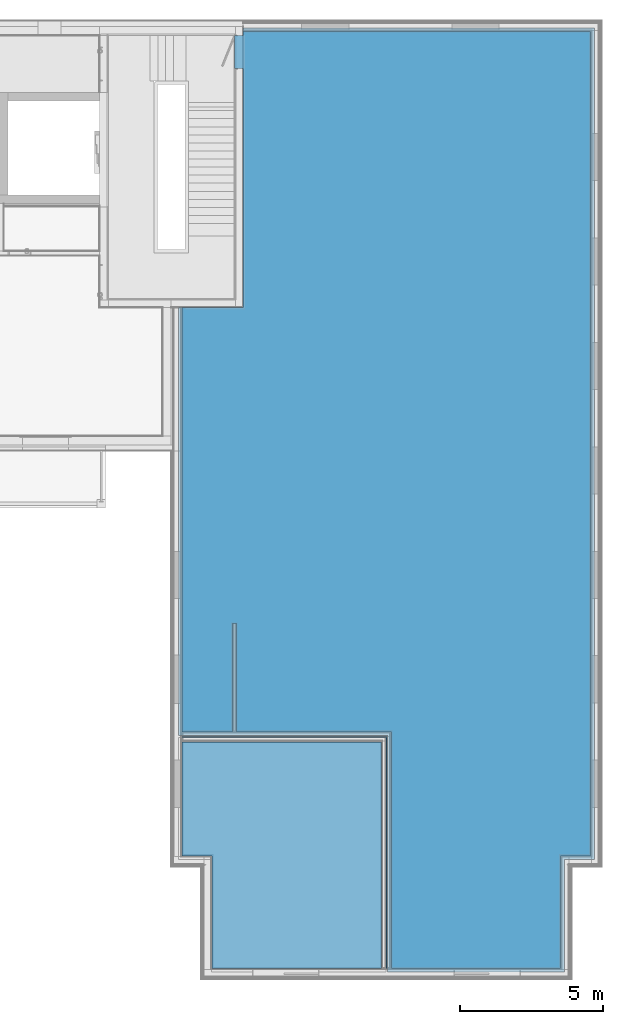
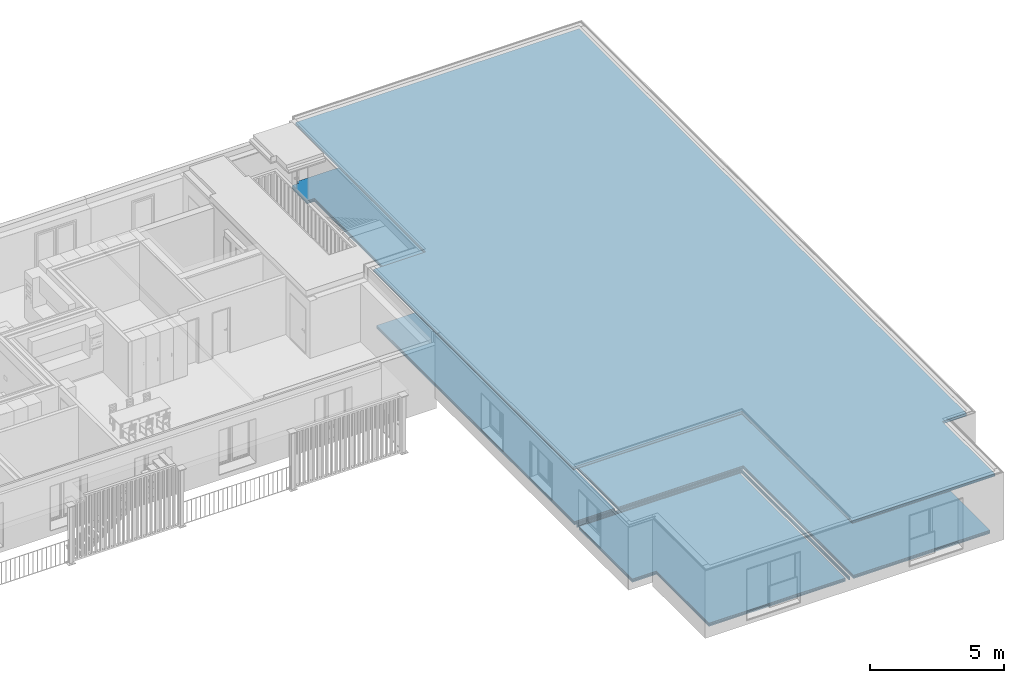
# One storey, part 18 of 34: 6 building element parts, 2 elements without a shape of their own.
"""IFC4 building model written with IfcOpenShell, lengths in millimetres."""

import ifcopenshell
import ifcopenshell.guid

model = None  # the IFC model being written
_history = None  # IfcOwnerHistory: only IFC2X3 demands one
_inside = {}  # id of a spatial element -> (the spatial element, [elements in it])
_under = {}  # id of a project, library or spatial element -> (it, [spatial elements below it])
_declared = {}  # id of a project -> (the project, [libraries it declares])
_typed = {}  # id of a type object -> (the type object, [elements of that type])
_made_of = {}  # id of a material, layer set ... -> (it, [elements and type objects made of it])


def new_model(schema):
    """Start an empty IFC model of exactly this schema.

    Asked for "IFC4X3", IfcOpenShell would pick the latest addendum, in which some entities
    have other attributes; the version numbers below select the first issue.
    IFC2X3 requires an IfcOwnerHistory on every rooted entity: one is made here for all.
    """
    global model, _history
    if schema == "IFC4X3":
        model = ifcopenshell.file(schema_version=(4, 3, 0, 0))
    else:
        model = ifcopenshell.file(schema=schema)
    _inside.clear()
    _under.clear()
    _declared.clear()
    _typed.clear()
    _made_of.clear()
    _history = None
    if model.schema == "IFC2X3":
        org = make("IfcOrganization", Name="unknown")
        user = make(
            "IfcPersonAndOrganization",
            ThePerson=make("IfcPerson", FamilyName="unknown"),
            TheOrganization=org,
        )
        app = make(
            "IfcApplication",
            ApplicationDeveloper=org,
            Version="unknown",
            ApplicationFullName="unknown",
            ApplicationIdentifier="unknown",
        )
        _history = make(
            "IfcOwnerHistory",
            OwningUser=user,
            OwningApplication=app,
            ChangeAction="ADDED",
            CreationDate=0,
        )
    return model


def make(cls, **values):
    """One entity of the class cls with the attributes given. An attribute that is None is left unset."""
    return model.create_entity(
        cls, **{name: value for name, value in values.items() if value is not None}
    )


def entity(cls, *values):
    """Any entity or typed value of the class cls, its attributes in the order of the schema. None: left unset."""
    e = model.create_entity(cls)
    for i, value in enumerate(values):
        if value is not None:
            e[i] = value
    return e


def rooted(cls, **values):
    """An entity with a GlobalId (a new one), such as an element, a storey or a relation."""
    return make(cls, GlobalId=ifcopenshell.guid.new(), OwnerHistory=_history, **values)


def si_unit(unit_type, name, prefix=None):
    """IfcSIUnit, for example si_unit("LENGTHUNIT", "METRE", prefix="MILLI")."""
    return make("IfcSIUnit", UnitType=unit_type, Prefix=prefix, Name=name)


def converted_unit(unit_type, name, factor, base, dimensions=None, offset=None):
    """IfcConversionBasedUnit, such as the inch: factor (a typed value) times the base unit."""
    return make(
        "IfcConversionBasedUnit"
        if offset is None
        else "IfcConversionBasedUnitWithOffset",
        ConversionOffset=offset,
        Dimensions=None
        if dimensions is None
        else entity("IfcDimensionalExponents", *dimensions),
        UnitType=unit_type,
        Name=name,
        ConversionFactor=make(
            "IfcMeasureWithUnit", ValueComponent=factor, UnitComponent=base
        ),
    )


def derived_unit(unit_type, elements):
    """IfcDerivedUnit: a product of units, each with its exponent."""
    return make(
        "IfcDerivedUnit",
        Elements=[
            make("IfcDerivedUnitElement", Unit=unit, Exponent=power)
            for unit, power in elements
        ],
        UnitType=unit_type,
    )


def assignment(units):
    """IfcUnitAssignment: the units of a project."""
    return None if units is None else make("IfcUnitAssignment", Units=units)


def point(xyz):
    """IfcCartesianPoint."""
    return None if xyz is None else make("IfcCartesianPoint", Coordinates=xyz)


def direction(xyz):
    """IfcDirection."""
    return None if xyz is None else make("IfcDirection", DirectionRatios=xyz)


def frame(location, z_axis=None, x_axis=None):
    """IfcAxis2Placement3D, a coordinate frame: its origin and axes. An axis left out is left unset."""
    return make(
        "IfcAxis2Placement3D",
        Location=point(location),
        Axis=direction(z_axis),
        RefDirection=direction(x_axis),
    )


def origin_with_axes():
    """The frame at (0, 0, 0) with the z axis (0, 0, 1) and the x axis (1, 0, 0) written out."""
    return frame((0.0, 0.0, 0.0), z_axis=(0.0, 0.0, 1.0), x_axis=(1.0, 0.0, 0.0))


def place(relative_to, where):
    """IfcLocalPlacement: puts the frame where relative to a parent placement (None: the world)."""
    return make(
        "IfcLocalPlacement", PlacementRelTo=relative_to, RelativePlacement=where
    )


def context(
    kind, dimensions, precision=None, world=None, true_north=None, identifier=None
):
    """IfcGeometricRepresentationContext, for example the 3D "Model" context."""
    return make(
        "IfcGeometricRepresentationContext",
        ContextIdentifier=identifier,
        ContextType=kind,
        CoordinateSpaceDimension=dimensions,
        Precision=precision,
        WorldCoordinateSystem=world,
        TrueNorth=true_north,
    )


def subcontext(parent, identifier, kind, view, scale=None):
    """IfcGeometricRepresentationSubContext, for example "Body" below "Model"."""
    return make(
        "IfcGeometricRepresentationSubContext",
        ContextIdentifier=identifier,
        ContextType=kind,
        ParentContext=parent,
        TargetScale=scale,
        TargetView=view,
    )


def project(units=None, contexts=None):
    """IfcProject with its units and contexts."""
    return rooted(
        "IfcProject",
        Name="project",
        RepresentationContexts=contexts,
        UnitsInContext=assignment(units),
    )


def spatial(cls, under=None, at=None, **own):
    """A site, building, storey or space (cls), placed at a placement, below another one or the project."""
    s = rooted(cls, ObjectPlacement=at, **own)
    if under is not None:
        _under.setdefault(under.id(), (under, []))[1].append(s)
    return s


def point_list(points):
    """IfcCartesianPointList2D or 3D."""
    cls = (
        "IfcCartesianPointList2D" if len(points[0]) == 2 else "IfcCartesianPointList3D"
    )
    return make(cls, CoordList=points)


def polygons(points, faces, closed=None, point_numbers=None):
    """IfcPolygonalFaceSet: a face is its outer loop, then its inner loops; points numbered from 1."""
    made = []
    for loops in faces:
        if len(loops) == 1:
            made.append(make("IfcIndexedPolygonalFace", CoordIndex=loops[0]))
        else:
            made.append(
                make(
                    "IfcIndexedPolygonalFaceWithVoids",
                    CoordIndex=loops[0],
                    InnerCoordIndices=loops[1:],
                )
            )
    return make(
        "IfcPolygonalFaceSet",
        Coordinates=point_list(points),
        Closed=closed,
        Faces=made,
        PnIndex=point_numbers,
    )


def shape(context_of_items, identifier, shape_type, items):
    """IfcShapeRepresentation: the items that make up one representation, for example the "Body"."""
    return make(
        "IfcShapeRepresentation",
        ContextOfItems=context_of_items,
        RepresentationIdentifier=identifier,
        RepresentationType=shape_type,
        Items=items,
    )


def material(Name=None, Category=None):
    """IfcMaterial."""
    return make("IfcMaterial", Name=Name, Category=Category)


def made_of(thing, what):
    """Note that an element or type object is made of a material, layer set ...; save() writes the relation."""
    if what is not None:
        _made_of.setdefault(what.id(), (what, []))[1].append(thing)
    return thing


def type_object(cls, material=None, **own):
    """A type object (cls), such as IfcWallType, which elements share."""
    return made_of(rooted(cls, **own), material)


def element(
    cls,
    number,
    at=None,
    inside=None,
    cuts=None,
    type_object=None,
    material=None,
    context=None,
    identifier="Body",
    shape_type=None,
    held_by="IfcProductDefinitionShape",
    body=None,
    shapes=None,
    **own,
):
    """One element of the class cls, such as IfcWall. Its Tag is "e" and its number.

    at: its placement. inside: the storey or other place that contains it. cuts: it is an
    opening in that element (IfcRelVoidsElement). A single representation is given by context,
    identifier, shape_type and body (its items); several are given by shapes. held_by: the class
    of the entity that holds the representations. save() writes the other relations.
    """
    e = rooted(cls, Tag="e%d" % number, ObjectPlacement=at, **own)
    if body is not None:
        shapes = [shape(context, identifier, shape_type, body)]
    if shapes is not None:
        e.Representation = make(held_by, Representations=shapes)
    if inside is not None:
        _inside.setdefault(inside.id(), (inside, []))[1].append(e)
    if cuts is not None:
        rooted(
            "IfcRelVoidsElement", RelatingBuildingElement=cuts, RelatedOpeningElement=e
        )
    if type_object is not None:
        _typed.setdefault(type_object.id(), (type_object, []))[1].append(e)
    return made_of(e, material)


def aggregate(whole, parts):
    """IfcRelAggregates: a whole, such as a stair, and the parts it consists of."""
    return rooted("IfcRelAggregates", RelatingObject=whole, RelatedObjects=parts)


def save(model, path):
    """Write the relations noted so far, then the file.

    IfcRelAggregates (storeys below a building ...), IfcRelContainedInSpatialStructure (elements
    in a storey), IfcRelDefinesByType, IfcRelAssociatesMaterial and IfcRelDeclares: one each for
    every whole, place, type object, material and project.
    """
    for whole, parts in _under.values():
        aggregate(whole, parts)
    for where, things in _inside.values():
        rooted(
            "IfcRelContainedInSpatialStructure",
            RelatedElements=things,
            RelatingStructure=where,
        )
    for kind, things in _typed.values():
        rooted("IfcRelDefinesByType", RelatedObjects=things, RelatingType=kind)
    for what, things in _made_of.values():
        rooted("IfcRelAssociatesMaterial", RelatedObjects=things, RelatingMaterial=what)
    for by, libraries in _declared.values():
        rooted("IfcRelDeclares", RelatingContext=by, RelatedDefinitions=libraries)
    model.write(path)


model = new_model("IFC4")

# Units and contexts
model_context = context("Model", 3, precision=0.01, world=origin_with_axes(), true_north=direction((0.0, 1.0)))
body_context = subcontext(model_context, "Body", "Model", "MODEL_VIEW")
ifc_project = project(units=[si_unit("LENGTHUNIT", "METRE", prefix="MILLI"), si_unit("AREAUNIT", "SQUARE_METRE"), si_unit("VOLUMEUNIT", "CUBIC_METRE"), converted_unit("PLANEANGLEUNIT", "DEGREE", entity("IfcPlaneAngleMeasure", 0.0174532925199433), si_unit("PLANEANGLEUNIT", "RADIAN"), dimensions=[0, 0, 0, 0, 0, 0, 0]), converted_unit("TIMEUNIT", "Year", entity("IfcTimeMeasure", 31557600.0), si_unit("TIMEUNIT", "SECOND"), dimensions=[0, 0, 1, 0, 0, 0, 0]), si_unit("MASSUNIT", "GRAM", prefix="KILO"), si_unit("THERMODYNAMICTEMPERATUREUNIT", "DEGREE_CELSIUS"), si_unit("LUMINOUSINTENSITYUNIT", "LUMEN"), si_unit("ENERGYUNIT", "JOULE", prefix="MEGA"), derived_unit("THERMALCONDUCTANCEUNIT", [(si_unit("POWERUNIT", "WATT"), 1), (si_unit("LENGTHUNIT", "METRE"), -1), (si_unit("THERMODYNAMICTEMPERATUREUNIT", "KELVIN"), -1)]), derived_unit("SPECIFICHEATCAPACITYUNIT", [(si_unit("ENERGYUNIT", "JOULE"), 1), (si_unit("MASSUNIT", "GRAM", prefix="KILO"), -1), (si_unit("THERMODYNAMICTEMPERATUREUNIT", "KELVIN"), -1)]), derived_unit("MASSDENSITYUNIT", [(si_unit("MASSUNIT", "GRAM", prefix="KILO"), 1), (si_unit("VOLUMEUNIT", "CUBIC_METRE"), -1)])], contexts=[model_context])

# Site, building, storey
site_placement = place(None, origin_with_axes())
site = spatial("IfcSite", under=ifc_project, at=site_placement, Name="Gelände", CompositionType="ELEMENT")
building_placement = place(site_placement, origin_with_axes())
building = spatial("IfcBuilding", under=site, at=building_placement, Name="Gebäude", CompositionType="ELEMENT")
storey_placement = place(building_placement, frame((0.0, 0.0, 2900.0), z_axis=(0.0, 0.0, 1.0), x_axis=(1.0, 0.0, 0.0)))
storey = spatial("IfcBuildingStorey", under=building, at=storey_placement, Name="1.OG", CompositionType="ELEMENT", Elevation=2900.0)

# Slab, building element parts
slab_type = type_object("IfcSlabType", Name="Geschossdecke Typ 01 256", PredefinedType="NOTDEFINED")
slab_placement = place(storey_placement, frame((32679.99744477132, 8696.597281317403, 3399.999948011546), z_axis=(0.0, 0.0, 1.0), x_axis=(1.0, 0.0, 0.0)))
slab = element("IfcSlab", 1, at=slab_placement, inside=storey, type_object=slab_type, Name="Deckennr.-073", PredefinedType="NOTDEFINED")
ifc_material_1 = material(Name="Balken Konstruktion gedämmt")
building_element_part_1_placement = place(slab_placement, origin_with_axes())
building_element_part_1 = element("IfcBuildingElementPart", 2, at=building_element_part_1_placement, material=ifc_material_1, Name="Balken Konstruktion gedämmt", PredefinedType="NOTDEFINED", context=body_context, shape_type="Tessellation", body=[
    polygons([(-12242.00000000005, 19242.00000000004, -237.9999999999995), (-12242.00000000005, 19242.00000000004, -156.9999999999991), (-12242.00000000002, 28772.00000000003, -156.9999999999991), (-12242.00000000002, 28772.00000000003, -237.9999999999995), (-14272.00000000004, 19242.00000000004, -237.9999999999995), (-14272.00000000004, 19242.00000000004, -156.9999999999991), (-14272.00000000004, 19251.00000000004, -156.9999999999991), (-12251.00000000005, 19251.00000000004, -156.9999999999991), (-12251.00000000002, 28772.00000000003, -156.9999999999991), (-12251.00000000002, 28772.00000000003, -237.9999999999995), (-12251.00000000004, 29002.00000000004, -237.9999999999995), (0.0, 29002.00000000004, -237.9999999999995), (0.0, 0.0, -237.9999999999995), (-1046.00002596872, 0.0, -237.9999999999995), (-1046.00002596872, -3929.000000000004, -237.9999999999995), (-7211.000000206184, -3929.000000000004, -237.9999999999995), (-7211.000000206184, 4318.000000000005, -237.9999999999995), (-14502.00000000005, 4318.000000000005, -237.9999999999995), (-14502.00000000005, 19251.00000000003, -237.9999999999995), (-14272.00000000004, 19251.00000000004, -237.9999999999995), (-14502.00000000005, 19251.00000000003, -137.9999999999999), (-12251.00000000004, 19251.00000000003, -137.9999999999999), (-12251.00000000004, 29002.00000000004, -137.9999999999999), (0.0, 29002.00000000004, -137.9999999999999), (0.0, 0.0, -137.9999999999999), (-1046.00002596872, 0.0, -137.9999999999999), (-1046.00002596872, -3929.000000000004, -137.9999999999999), (-7211.000000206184, -3929.000000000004, -137.9999999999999), (-7211.000000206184, 4318.000000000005, -137.9999999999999), (-14502.00000000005, 4318.000000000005, -137.9999999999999)], [[[1, 2, 3, 4]], [[2, 1, 5, 6]], [[2, 6, 7, 8, 9, 3]], [[10, 4, 3, 9]], [[5, 1, 4, 10, 11, 12, 13, 14, 15, 16, 17, 18, 19, 20]], [[20, 7, 6, 5]], [[7, 20, 19, 21, 22, 8]], [[9, 8, 22, 23, 11, 10]], [[12, 11, 23, 24]], [[13, 12, 24, 25]], [[14, 13, 25, 26]], [[15, 14, 26, 27]], [[16, 15, 27, 28]], [[17, 16, 28, 29]], [[18, 17, 29, 30]], [[19, 18, 30, 21]], [[26, 25, 24, 23, 22, 21, 30, 29, 28, 27]]], closed=True),
])
ifc_material_2 = material(Name="Grobspanplatte-OSB")
building_element_part_2_placement = place(slab_placement, origin_with_axes())
building_element_part_2 = element("IfcBuildingElementPart", 3, at=building_element_part_2_placement, material=ifc_material_2, Name="Grobspanplatte-OSB", PredefinedType="NOTDEFINED", context=body_context, shape_type="Tessellation", body=[
    polygons([(-12176.00000000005, 19176.00000000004, -246.9999999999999), (-12176.00000000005, 19176.00000000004, -237.9999999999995), (-12176.00000000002, 28772.00000000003, -237.9999999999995), (-12176.00000000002, 28772.00000000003, -246.9999999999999), (-14272.00000000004, 19176.00000000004, -237.9999999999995), (-14272.00000000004, 19176.00000000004, -246.9999999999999), (-14272.00000000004, 19242.00000000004, -237.9999999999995), (-14272.00000000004, 19251.00000000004, -237.9999999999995), (-14502.00000000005, 19251.00000000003, -237.9999999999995), (-14502.00000000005, 4318.000000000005, -237.9999999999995), (-7211.000000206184, 4318.000000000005, -237.9999999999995), (-7211.000000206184, -3929.000000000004, -237.9999999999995), (-1046.00002596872, -3929.000000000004, -237.9999999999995), (-1046.00002596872, 0.0, -237.9999999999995), (0.0, 0.0, -237.9999999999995), (0.0, 29002.00000000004, -237.9999999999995), (-12251.00000000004, 29002.00000000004, -237.9999999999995), (-12251.00000000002, 28772.00000000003, -237.9999999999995), (-12242.00000000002, 28772.00000000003, -237.9999999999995), (-12251.00000000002, 28772.00000000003, -246.9999999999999), (-12251.00000000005, 19251.00000000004, -246.9999999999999), (-14272.00000000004, 19251.00000000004, -246.9999999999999), (-12251.00000000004, 19251.00000000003, -256.0000000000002), (-14502.00000000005, 19251.00000000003, -256.0000000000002), (-14502.00000000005, 4318.000000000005, -256.0000000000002), (-7211.000000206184, 4318.000000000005, -256.0000000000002), (-7211.000000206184, -3929.000000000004, -256.0000000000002), (-1046.00002596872, -3929.000000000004, -256.0000000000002), (-1046.00002596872, 0.0, -256.0000000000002), (0.0, 0.0, -256.0000000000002), (0.0, 29002.00000000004, -256.0000000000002), (-12251.00000000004, 29002.00000000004, -256.0000000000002)], [[[1, 2, 3, 4]], [[5, 2, 1, 6]], [[7, 8, 9, 10, 11, 12, 13, 14, 15, 16, 17, 18, 19, 3, 2, 5]], [[3, 19, 18, 20, 4]], [[21, 22, 6, 1, 4, 20]], [[22, 8, 7, 5, 6]], [[22, 21, 23, 24, 9, 8]], [[10, 9, 24, 25]], [[11, 10, 25, 26]], [[12, 11, 26, 27]], [[13, 12, 27, 28]], [[14, 13, 28, 29]], [[15, 14, 29, 30]], [[16, 15, 30, 31]], [[17, 16, 31, 32]], [[20, 18, 17, 32, 23, 21]], [[32, 31, 30, 29, 28, 27, 26, 25, 24, 23]]], closed=True),
])
aggregate(slab, [building_element_part_1, building_element_part_2])

# Covering, building element parts
covering_type = type_object("IfcCoveringType", Name="Bodenaufbau Typ 01 150", PredefinedType="NOTDEFINED")
covering_placement = place(storey_placement, frame((18307.99744477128, 27947.59728131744, 500.0), z_axis=(0.0, 0.0, 1.0), x_axis=(1.0, 0.0, 0.0)))
covering = element("IfcCovering", 4, at=covering_placement, inside=storey, type_object=covering_type, Name="Decke-007", PredefinedType="NOTDEFINED")
ifc_material_3 = material(Name="Bodenbelag")
building_element_part_3_placement = place(covering_placement, origin_with_axes())
building_element_part_3 = element("IfcBuildingElementPart", 5, at=building_element_part_3_placement, material=ifc_material_3, Name="Bodenbelag", PredefinedType="NOTDEFINED", context=body_context, shape_type="Tessellation", body=[
    polygons([(6944.999999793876, -23050.00000000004, 149.9999999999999), (6944.999999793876, -15149.00000000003, 149.9999999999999), (0.0, -15149.00000000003, 149.9999999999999), (0.0, -19121.00000000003, 149.9999999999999), (1046.00002528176, -19121.00000000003, 149.9999999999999), (1046.00002528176, -23050.00000000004, 149.9999999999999), (6944.999999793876, -15149.00000000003, 134.9999999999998), (6944.999999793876, -23050.00000000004, 134.9999999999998), (0.0, -15149.00000000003, 134.9999999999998), (0.0, -19121.00000000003, 134.9999999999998), (1046.00002528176, -19121.00000000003, 134.9999999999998), (1046.00002528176, -23050.00000000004, 134.9999999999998)], [[[1, 2, 3, 4, 5, 6]], [[7, 2, 1, 8]], [[2, 7, 9, 3]], [[3, 9, 10, 4]], [[10, 11, 5, 4]], [[11, 12, 6, 5]], [[8, 1, 6, 12]], [[7, 8, 12, 11, 10, 9]]], closed=True),
    polygons([(7140.999999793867, -23050.00000000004, 149.9999999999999), (7140.999999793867, -14953.00000000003, 149.9999999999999), (0.0, -14953.00000000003, 149.9999999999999), (0.0, -14993.00000000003, 149.9999999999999), (7100.999999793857, -14993.00000000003, 149.9999999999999), (7100.999999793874, -15113.00000000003, 149.9999999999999), (7100.999999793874, -23050.00000000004, 149.9999999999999), (7140.999999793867, -14953.00000000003, 134.9999999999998), (7140.999999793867, -23050.00000000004, 134.9999999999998), (0.0, -14953.00000000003, 134.9999999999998), (0.0, -14993.00000000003, 134.9999999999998), (7100.999999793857, -14993.00000000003, 134.9999999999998), (7100.999999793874, -15113.00000000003, 134.9999999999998), (7100.999999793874, -23050.00000000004, 134.9999999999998)], [[[1, 2, 3, 4, 5, 6, 7]], [[8, 2, 1, 9]], [[2, 8, 10, 3]], [[3, 10, 11, 4]], [[5, 4, 11, 12]], [[13, 6, 5, 12]], [[7, 6, 13, 14]], [[9, 1, 7, 14]], [[8, 9, 14, 13, 12, 11, 10]]], closed=True),
    polygons([(1899.507296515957, -11025.94628552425, 149.9999999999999), (1899.507296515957, -14797.00000000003, 149.9999999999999), (7296.999999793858, -14797.00000000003, 149.9999999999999), (7296.999999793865, -14815.00000000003, 149.9999999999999), (7296.999999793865, -23050.00000000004, 149.9999999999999), (13195.99997403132, -23050.00000000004, 149.9999999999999), (13195.99997403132, -19121.00000000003, 149.9999999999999), (14242.00000000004, -19121.00000000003, 149.9999999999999), (14242.00000000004, 9620.99999999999, 149.9999999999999), (2121.000000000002, 9620.99999999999, 149.9999999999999), (2121.000000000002, 9489.99999999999, 149.9999999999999), (1821.000000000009, 9489.99999999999, 149.9999999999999), (1821.000000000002, 8334.999999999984, 149.9999999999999), (2120.999999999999, 8334.999999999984, 149.9999999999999), (2120.999999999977, 0.0, 149.9999999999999), (0.0, 0.0, 149.9999999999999), (0.0, -14797.00000000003, 149.9999999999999), (1745.507296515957, -14797.00000000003, 149.9999999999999), (1745.507296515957, -11025.94628552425, 149.9999999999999), (1899.507296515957, -11025.94628552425, 134.9999999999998), (1899.507296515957, -14797.00000000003, 135.0000000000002), (7296.999999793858, -14797.00000000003, 134.9999999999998), (7296.999999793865, -14815.00000000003, 134.9999999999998), (7296.999999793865, -23050.00000000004, 134.9999999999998), (13195.99997403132, -23050.00000000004, 134.9999999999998), (13195.99997403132, -19121.00000000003, 134.9999999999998), (14242.00000000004, -19121.00000000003, 134.9999999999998), (14242.00000000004, 9620.99999999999, 134.9999999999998), (2121.000000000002, 9620.99999999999, 134.9999999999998), (2121.000000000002, 9489.99999999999, 134.9999999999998), (1821.000000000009, 9489.99999999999, 134.9999999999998), (1821.000000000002, 8334.999999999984, 134.9999999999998), (2120.999999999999, 8334.999999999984, 134.9999999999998), (2120.999999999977, 0.0, 134.9999999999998), (0.0, 0.0, 134.9999999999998), (0.0, -14797.00000000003, 134.9999999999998), (1745.507296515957, -14797.00000000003, 134.9999999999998), (1745.507296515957, -11025.94628552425, 134.9999999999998)], [[[1, 2, 3, 4, 5, 6, 7, 8, 9, 10, 11, 12, 13, 14, 15, 16, 17, 18, 19]], [[2, 1, 20, 21]], [[2, 21, 22, 3]], [[23, 4, 3, 22]], [[5, 4, 23, 24]], [[5, 24, 25, 6]], [[25, 26, 7, 6]], [[26, 27, 8, 7]], [[27, 28, 9, 8]], [[28, 29, 10, 9]], [[29, 30, 11, 10]], [[30, 31, 12, 11]], [[31, 32, 13, 12]], [[32, 33, 14, 13]], [[33, 34, 15, 14]], [[34, 35, 16, 15]], [[36, 17, 16, 35]], [[37, 18, 17, 36]], [[19, 18, 37, 38]], [[20, 1, 19, 38]], [[20, 38, 37, 36, 35, 34, 33, 32, 31, 30, 29, 28, 27, 26, 25, 24, 23, 22, 21]]], closed=True),
])
ifc_material_4 = material(Name="Unterlagsboden")
building_element_part_4_placement = place(covering_placement, origin_with_axes())
building_element_part_4 = element("IfcBuildingElementPart", 6, at=building_element_part_4_placement, material=ifc_material_4, Name="Unterlagsboden", PredefinedType="NOTDEFINED", context=body_context, shape_type="Tessellation", body=[
    polygons([(6944.999999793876, -23050.00000000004, 134.9999999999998), (6944.999999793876, -15149.00000000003, 134.9999999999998), (0.0, -15149.00000000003, 134.9999999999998), (0.0, -19121.00000000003, 134.9999999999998), (1046.00002528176, -19121.00000000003, 134.9999999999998), (1046.00002528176, -23050.00000000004, 134.9999999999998), (6944.999999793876, -15149.00000000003, 79.99999999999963), (6944.999999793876, -23050.00000000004, 79.99999999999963), (0.0, -15149.00000000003, 79.99999999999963), (0.0, -19121.00000000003, 79.99999999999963), (1046.00002528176, -19121.00000000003, 79.99999999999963), (1046.00002528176, -23050.00000000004, 79.99999999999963)], [[[1, 2, 3, 4, 5, 6]], [[7, 2, 1, 8]], [[2, 7, 9, 3]], [[3, 9, 10, 4]], [[10, 11, 5, 4]], [[11, 12, 6, 5]], [[8, 1, 6, 12]], [[7, 8, 12, 11, 10, 9]]], closed=True),
    polygons([(7140.999999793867, -23050.00000000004, 134.9999999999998), (7140.999999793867, -14953.00000000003, 134.9999999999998), (0.0, -14953.00000000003, 134.9999999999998), (0.0, -14993.00000000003, 134.9999999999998), (7100.999999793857, -14993.00000000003, 134.9999999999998), (7100.999999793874, -15113.00000000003, 134.9999999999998), (7100.999999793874, -23050.00000000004, 134.9999999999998), (7140.999999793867, -14953.00000000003, 79.99999999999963), (7140.999999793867, -23050.00000000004, 79.99999999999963), (0.0, -14953.00000000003, 79.99999999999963), (0.0, -14993.00000000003, 79.99999999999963), (7100.999999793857, -14993.00000000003, 79.99999999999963), (7100.999999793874, -15113.00000000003, 79.99999999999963), (7100.999999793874, -23050.00000000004, 79.99999999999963)], [[[1, 2, 3, 4, 5, 6, 7]], [[8, 2, 1, 9]], [[2, 8, 10, 3]], [[3, 10, 11, 4]], [[5, 4, 11, 12]], [[13, 6, 5, 12]], [[7, 6, 13, 14]], [[9, 1, 7, 14]], [[8, 9, 14, 13, 12, 11, 10]]], closed=True),
    polygons([(1899.507296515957, -11025.94628552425, 134.9999999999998), (1899.507296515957, -14797.00000000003, 134.9999999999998), (7296.999999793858, -14797.00000000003, 134.9999999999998), (7296.999999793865, -14815.00000000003, 134.9999999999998), (7296.999999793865, -23050.00000000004, 134.9999999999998), (13195.99997403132, -23050.00000000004, 134.9999999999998), (13195.99997403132, -19121.00000000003, 134.9999999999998), (14242.00000000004, -19121.00000000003, 134.9999999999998), (14242.00000000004, 9620.99999999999, 134.9999999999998), (2121.000000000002, 9620.99999999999, 134.9999999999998), (2121.000000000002, 9489.99999999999, 134.9999999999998), (1821.000000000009, 9489.99999999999, 134.9999999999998), (1821.000000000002, 8334.999999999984, 134.9999999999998), (2120.999999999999, 8334.999999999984, 134.9999999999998), (2120.999999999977, 0.0, 134.9999999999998), (0.0, 0.0, 134.9999999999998), (0.0, -14797.00000000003, 134.9999999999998), (1745.507296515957, -14797.00000000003, 134.9999999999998), (1745.507296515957, -11025.94628552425, 134.9999999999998), (1899.507296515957, -11025.94628552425, 79.99999999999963), (1899.507296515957, -14797.00000000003, 80.00000000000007), (7296.999999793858, -14797.00000000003, 79.99999999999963), (7296.999999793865, -14815.00000000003, 79.99999999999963), (7296.999999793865, -23050.00000000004, 79.99999999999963), (13195.99997403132, -23050.00000000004, 79.99999999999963), (13195.99997403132, -19121.00000000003, 79.99999999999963), (14242.00000000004, -19121.00000000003, 79.99999999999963), (14242.00000000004, 9620.99999999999, 79.99999999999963), (2121.000000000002, 9620.99999999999, 79.99999999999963), (2121.000000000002, 9489.99999999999, 79.99999999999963), (1821.000000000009, 9489.99999999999, 79.99999999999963), (1821.000000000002, 8334.999999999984, 79.99999999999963), (2120.999999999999, 8334.999999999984, 79.99999999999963), (2120.999999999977, 0.0, 79.99999999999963), (0.0, 0.0, 79.99999999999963), (0.0, -14797.00000000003, 79.99999999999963), (1745.507296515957, -14797.00000000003, 79.99999999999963), (1745.507296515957, -11025.94628552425, 79.99999999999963)], [[[1, 2, 3, 4, 5, 6, 7, 8, 9, 10, 11, 12, 13, 14, 15, 16, 17, 18, 19]], [[2, 1, 20, 21]], [[2, 21, 22, 3]], [[23, 4, 3, 22]], [[5, 4, 23, 24]], [[5, 24, 25, 6]], [[25, 26, 7, 6]], [[26, 27, 8, 7]], [[27, 28, 9, 8]], [[28, 29, 10, 9]], [[29, 30, 11, 10]], [[30, 31, 12, 11]], [[31, 32, 13, 12]], [[32, 33, 14, 13]], [[33, 34, 15, 14]], [[34, 35, 16, 15]], [[36, 17, 16, 35]], [[37, 18, 17, 36]], [[19, 18, 37, 38]], [[20, 1, 19, 38]], [[20, 38, 37, 36, 35, 34, 33, 32, 31, 30, 29, 28, 27, 26, 25, 24, 23, 22, 21]]], closed=True),
])
ifc_material_5 = material(Name="Trittschalldämmung")
building_element_part_5_placement = place(covering_placement, origin_with_axes())
building_element_part_5 = element("IfcBuildingElementPart", 7, at=building_element_part_5_placement, material=ifc_material_5, Name="Trittschalldämmung", PredefinedType="NOTDEFINED", context=body_context, shape_type="Tessellation", body=[
    polygons([(6944.999999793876, -23050.00000000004, 80.00000000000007), (6944.999999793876, -15149.00000000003, 80.00000000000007), (0.0, -15149.00000000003, 80.00000000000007), (0.0, -19121.00000000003, 80.00000000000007), (1046.00002528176, -19121.00000000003, 80.00000000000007), (1046.00002528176, -23050.00000000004, 80.00000000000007), (6944.999999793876, -15149.00000000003, 50.00000000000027), (6944.999999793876, -23050.00000000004, 50.00000000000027), (0.0, -15149.00000000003, 50.00000000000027), (0.0, -19121.00000000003, 50.00000000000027), (1046.00002528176, -19121.00000000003, 50.00000000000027), (1046.00002528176, -23050.00000000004, 50.00000000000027)], [[[1, 2, 3, 4, 5, 6]], [[7, 2, 1, 8]], [[2, 7, 9, 3]], [[3, 9, 10, 4]], [[10, 11, 5, 4]], [[11, 12, 6, 5]], [[8, 1, 6, 12]], [[7, 8, 12, 11, 10, 9]]], closed=True),
    polygons([(7140.999999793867, -23050.00000000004, 80.00000000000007), (7140.999999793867, -14953.00000000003, 80.00000000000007), (0.0, -14953.00000000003, 80.00000000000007), (0.0, -14993.00000000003, 80.00000000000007), (7100.999999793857, -14993.00000000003, 80.00000000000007), (7100.999999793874, -15113.00000000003, 80.00000000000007), (7100.999999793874, -23050.00000000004, 80.00000000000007), (7140.999999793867, -14953.00000000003, 50.00000000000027), (7140.999999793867, -23050.00000000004, 50.00000000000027), (0.0, -14953.00000000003, 50.00000000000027), (0.0, -14993.00000000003, 50.00000000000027), (7100.999999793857, -14993.00000000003, 50.00000000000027), (7100.999999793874, -15113.00000000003, 50.00000000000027), (7100.999999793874, -23050.00000000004, 50.00000000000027)], [[[1, 2, 3, 4, 5, 6, 7]], [[8, 2, 1, 9]], [[2, 8, 10, 3]], [[3, 10, 11, 4]], [[5, 4, 11, 12]], [[13, 6, 5, 12]], [[7, 6, 13, 14]], [[9, 1, 7, 14]], [[8, 9, 14, 13, 12, 11, 10]]], closed=True),
    polygons([(1899.507296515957, -11025.94628552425, 80.00000000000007), (1899.507296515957, -14797.00000000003, 80.00000000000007), (7296.999999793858, -14797.00000000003, 80.00000000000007), (7296.999999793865, -14815.00000000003, 80.00000000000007), (7296.999999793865, -23050.00000000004, 80.00000000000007), (13195.99997403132, -23050.00000000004, 80.00000000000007), (13195.99997403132, -19121.00000000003, 80.00000000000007), (14242.00000000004, -19121.00000000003, 80.00000000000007), (14242.00000000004, 9620.99999999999, 80.00000000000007), (2121.000000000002, 9620.99999999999, 80.00000000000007), (2121.000000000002, 9489.99999999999, 80.00000000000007), (1821.000000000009, 9489.99999999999, 80.00000000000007), (1821.000000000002, 8334.999999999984, 80.00000000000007), (2120.999999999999, 8334.999999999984, 80.00000000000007), (2120.999999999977, 0.0, 80.00000000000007), (0.0, 0.0, 80.00000000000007), (0.0, -14797.00000000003, 80.00000000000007), (1745.507296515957, -14797.00000000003, 80.00000000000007), (1745.507296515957, -11025.94628552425, 80.00000000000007), (1899.507296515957, -11025.94628552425, 50.00000000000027), (1899.507296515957, -14797.00000000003, 50.00000000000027), (7296.999999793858, -14797.00000000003, 50.00000000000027), (7296.999999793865, -14815.00000000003, 50.00000000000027), (7296.999999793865, -23050.00000000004, 50.00000000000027), (13195.99997403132, -23050.00000000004, 50.00000000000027), (13195.99997403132, -19121.00000000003, 50.00000000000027), (14242.00000000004, -19121.00000000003, 50.00000000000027), (14242.00000000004, 9620.99999999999, 50.00000000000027), (2121.000000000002, 9620.99999999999, 50.00000000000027), (2121.000000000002, 9489.99999999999, 50.00000000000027), (1821.000000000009, 9489.99999999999, 50.00000000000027), (1821.000000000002, 8334.999999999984, 50.00000000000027), (2120.999999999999, 8334.999999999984, 50.00000000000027), (2120.999999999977, 0.0, 50.00000000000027), (0.0, 0.0, 50.00000000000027), (0.0, -14797.00000000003, 50.00000000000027), (1745.507296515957, -14797.00000000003, 50.00000000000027), (1745.507296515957, -11025.94628552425, 50.00000000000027)], [[[1, 2, 3, 4, 5, 6, 7, 8, 9, 10, 11, 12, 13, 14, 15, 16, 17, 18, 19]], [[2, 1, 20, 21]], [[2, 21, 22, 3]], [[23, 4, 3, 22]], [[5, 4, 23, 24]], [[5, 24, 25, 6]], [[25, 26, 7, 6]], [[26, 27, 8, 7]], [[27, 28, 9, 8]], [[28, 29, 10, 9]], [[29, 30, 11, 10]], [[30, 31, 12, 11]], [[31, 32, 13, 12]], [[32, 33, 14, 13]], [[33, 34, 15, 14]], [[34, 35, 16, 15]], [[36, 17, 16, 35]], [[37, 18, 17, 36]], [[19, 18, 37, 38]], [[20, 1, 19, 38]], [[20, 38, 37, 36, 35, 34, 33, 32, 31, 30, 29, 28, 27, 26, 25, 24, 23, 22, 21]]], closed=True),
])
ifc_material_6 = material(Name="Dämmung Innen")
building_element_part_6_placement = place(covering_placement, origin_with_axes())
building_element_part_6 = element("IfcBuildingElementPart", 8, at=building_element_part_6_placement, material=ifc_material_6, Name="Dämmung Innen", PredefinedType="NOTDEFINED", context=body_context, shape_type="Tessellation", body=[
    polygons([(6944.999999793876, -23050.00000000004, 49.99999999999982), (6944.999999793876, -15149.00000000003, 49.99999999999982), (0.0, -15149.00000000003, 49.99999999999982), (0.0, -19121.00000000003, 49.99999999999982), (1046.00002528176, -19121.00000000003, 49.99999999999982), (1046.00002528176, -23050.00000000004, 49.99999999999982), (6944.999999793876, -15149.00000000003, 0.0), (6944.999999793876, -23050.00000000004, 0.0), (0.0, -15149.00000000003, 0.0), (0.0, -19121.00000000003, 0.0), (1046.00002528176, -19121.00000000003, 0.0), (1046.00002528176, -23050.00000000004, 0.0)], [[[1, 2, 3, 4, 5, 6]], [[7, 2, 1, 8]], [[2, 7, 9, 3]], [[3, 9, 10, 4]], [[4, 10, 11, 5]], [[5, 11, 12, 6]], [[8, 1, 6, 12]], [[7, 8, 12, 11, 10, 9]]], closed=True),
    polygons([(7140.999999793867, -23050.00000000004, 49.99999999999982), (7140.999999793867, -14953.00000000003, 49.99999999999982), (0.0, -14953.00000000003, 49.99999999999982), (0.0, -14993.00000000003, 49.99999999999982), (7100.999999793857, -14993.00000000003, 49.99999999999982), (7100.999999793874, -15113.00000000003, 49.99999999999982), (7100.999999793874, -23050.00000000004, 49.99999999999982), (7140.999999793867, -14953.00000000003, 0.0), (7140.999999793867, -23050.00000000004, 0.0), (0.0, -14953.00000000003, 0.0), (0.0, -14993.00000000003, 0.0), (7100.999999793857, -14993.00000000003, 0.0), (7100.999999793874, -15113.00000000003, 0.0), (7100.999999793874, -23050.00000000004, 0.0)], [[[1, 2, 3, 4, 5, 6, 7]], [[8, 2, 1, 9]], [[2, 8, 10, 3]], [[3, 10, 11, 4]], [[5, 4, 11, 12]], [[13, 6, 5, 12]], [[7, 6, 13, 14]], [[9, 1, 7, 14]], [[8, 9, 14, 13, 12, 11, 10]]], closed=True),
    polygons([(1899.507296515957, -11025.94628552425, 49.99999999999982), (1899.507296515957, -14797.00000000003, 50.00000000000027), (7296.999999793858, -14797.00000000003, 49.99999999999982), (7296.999999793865, -14815.00000000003, 49.99999999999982), (7296.999999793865, -23050.00000000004, 49.99999999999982), (13195.99997403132, -23050.00000000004, 49.99999999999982), (13195.99997403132, -19121.00000000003, 49.99999999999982), (14242.00000000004, -19121.00000000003, 49.99999999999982), (14242.00000000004, 9620.99999999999, 49.99999999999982), (2121.000000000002, 9620.99999999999, 49.99999999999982), (2121.000000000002, 9489.99999999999, 49.99999999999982), (1821.000000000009, 9489.99999999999, 49.99999999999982), (1821.000000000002, 8334.999999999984, 49.99999999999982), (2120.999999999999, 8334.999999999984, 49.99999999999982), (2120.999999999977, 0.0, 49.99999999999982), (0.0, 0.0, 49.99999999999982), (0.0, -14797.00000000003, 49.99999999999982), (1745.507296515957, -14797.00000000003, 49.99999999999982), (1745.507296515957, -11025.94628552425, 49.99999999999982), (1899.507296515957, -11025.94628552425, 0.0), (1899.507296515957, -14797.00000000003, 0.0), (7296.999999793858, -14797.00000000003, 0.0), (7296.999999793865, -14815.00000000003, 0.0), (7296.999999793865, -23050.00000000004, 0.0), (13195.99997403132, -23050.00000000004, 0.0), (13195.99997403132, -19121.00000000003, 0.0), (14242.00000000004, -19121.00000000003, 0.0), (14242.00000000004, 9620.99999999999, 0.0), (2121.000000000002, 9620.99999999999, 0.0), (2121.000000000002, 9489.99999999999, 0.0), (1821.000000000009, 9489.99999999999, 0.0), (1821.000000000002, 8334.999999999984, 0.0), (2120.999999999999, 8334.999999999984, 0.0), (2120.999999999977, 0.0, 0.0), (0.0, 0.0, 0.0), (0.0, -14797.00000000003, 0.0), (1745.507296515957, -14797.00000000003, 0.0), (1745.507296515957, -11025.94628552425, 0.0)], [[[1, 2, 3, 4, 5, 6, 7, 8, 9, 10, 11, 12, 13, 14, 15, 16, 17, 18, 19]], [[2, 1, 20, 21]], [[2, 21, 22, 3]], [[23, 4, 3, 22]], [[5, 4, 23, 24]], [[5, 24, 25, 6]], [[6, 25, 26, 7]], [[7, 26, 27, 8]], [[8, 27, 28, 9]], [[9, 28, 29, 10]], [[10, 29, 30, 11]], [[11, 30, 31, 12]], [[12, 31, 32, 13]], [[13, 32, 33, 14]], [[14, 33, 34, 15]], [[15, 34, 35, 16]], [[36, 17, 16, 35]], [[37, 18, 17, 36]], [[19, 18, 37, 38]], [[20, 1, 19, 38]], [[20, 38, 37, 36, 35, 34, 33, 32, 31, 30, 29, 28, 27, 26, 25, 24, 23, 22, 21]]], closed=True),
])
aggregate(covering, [building_element_part_3, building_element_part_4, building_element_part_5, building_element_part_6])

save(model, "model.ifc")
